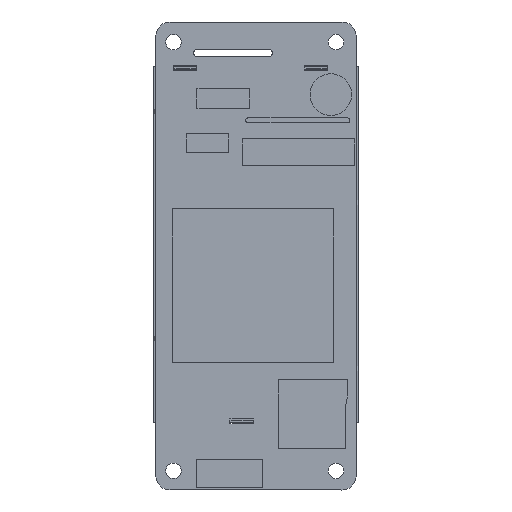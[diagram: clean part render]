
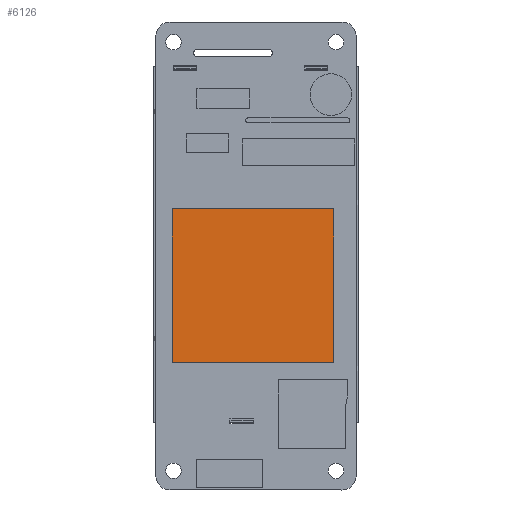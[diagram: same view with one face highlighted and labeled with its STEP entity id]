
A CAD part, front view. The second image highlights one B-rep face of the part: STEP entity #6126.
In plain terms, the highlighted planar face has unit normal (0, -1, 0).
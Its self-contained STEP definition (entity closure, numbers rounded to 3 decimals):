
#1828=DIRECTION('',(0.,0.,1.));
#1829=VECTOR('',#1828,32.766);
#1830=CARTESIAN_POINT('',(-17.849,-10.1,-25.061));
#1831=LINE('',#1830,#1829);
#1832=DIRECTION('',(1.,0.,0.));
#1833=VECTOR('',#1832,34.417);
#1834=CARTESIAN_POINT('',(-17.849,-10.1,7.705));
#1835=LINE('',#1834,#1833);
#1836=DIRECTION('',(0.,0.,-1.));
#1837=VECTOR('',#1836,32.766);
#1838=CARTESIAN_POINT('',(16.568,-10.1,7.705));
#1839=LINE('',#1838,#1837);
#1840=DIRECTION('',(-1.,0.,0.));
#1841=VECTOR('',#1840,34.417);
#1842=CARTESIAN_POINT('',(16.568,-10.1,-25.061));
#1843=LINE('',#1842,#1841);
#2474=CARTESIAN_POINT('',(-17.849,-10.1,7.705));
#2475=VERTEX_POINT('',#2474);
#2476=CARTESIAN_POINT('',(-17.849,-10.1,-25.061));
#2477=VERTEX_POINT('',#2476);
#2478=CARTESIAN_POINT('',(16.568,-10.1,7.705));
#2479=VERTEX_POINT('',#2478);
#2480=CARTESIAN_POINT('',(16.568,-10.1,-25.061));
#2481=VERTEX_POINT('',#2480);
#6115=CARTESIAN_POINT('',(-21.4,-10.1,44.601));
#6116=DIRECTION('',(0.,-1.,0.));
#6117=DIRECTION('',(0.,0.,-1.));
#6118=AXIS2_PLACEMENT_3D('',#6115,#6116,#6117);
#6119=PLANE('',#6118);
#6120=ORIENTED_EDGE('',*,*,#6039,.T.);
#6121=ORIENTED_EDGE('',*,*,#6061,.T.);
#6122=ORIENTED_EDGE('',*,*,#6082,.T.);
#6123=ORIENTED_EDGE('',*,*,#6102,.T.);
#6124=EDGE_LOOP('',(#6120,#6121,#6122,#6123));
#6125=FACE_OUTER_BOUND('',#6124,.F.);
#6039=EDGE_CURVE('',#2477,#2475,#1831,.T.);
#6061=EDGE_CURVE('',#2475,#2479,#1835,.T.);
#6082=EDGE_CURVE('',#2479,#2481,#1839,.T.);
#6102=EDGE_CURVE('',#2481,#2477,#1843,.T.);
#6126=ADVANCED_FACE('',(#6125),#6119,.T.);
